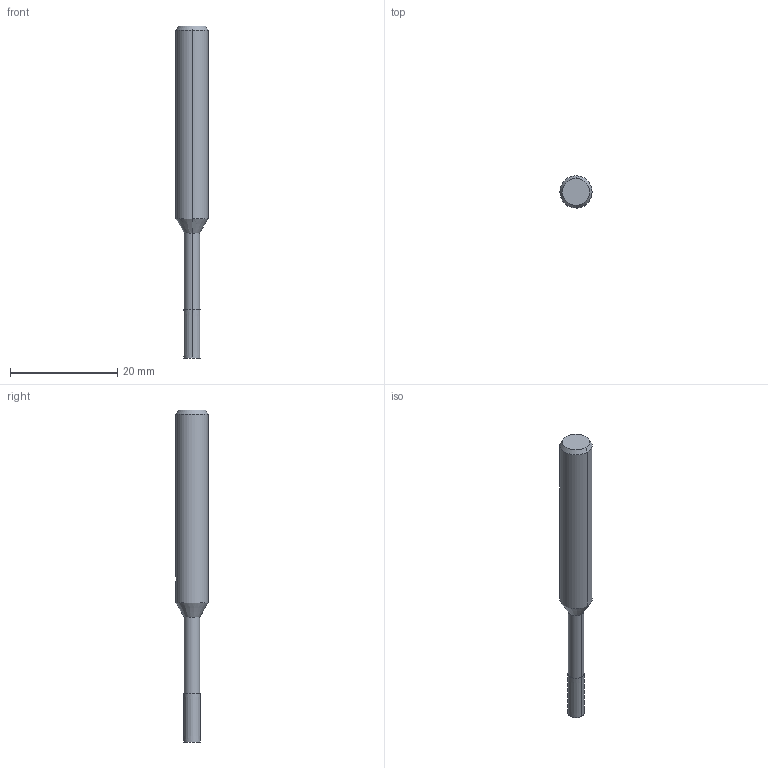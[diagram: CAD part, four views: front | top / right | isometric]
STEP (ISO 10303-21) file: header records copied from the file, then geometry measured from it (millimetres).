
FILE_DESCRIPTION(('no description'),'unknown implementation level');
FILE_NAME('solidB51uw4sRUYlU7l_InC3S7B0kRBY_1.STP',' ',('CIMSOURCE GmbH'),('CADClick - KiM GmbH - www.kimweb.de'),'unknown preprocess','ACIS','unknown authorization');
FILE_SCHEMA(('automotive_design'));
Length unit declared in the file: millimetre
Products named in the file (2): NOCUT; CUT
Bounding box: 6 x 6 x 62 mm (x, y, z)
Volume: 1216 mm3; surface area: 1065.5 mm2
Topology: 2 solids, 2 shells, 41 faces, 93 edges, 58 vertices
Faces by surface type: cylinder 16, cone 14, plane 11
Entity records: 2488 total; most frequent: CARTESIAN_POINT 414, DIRECTION 211, STYLED_ITEM 194, PRESENTATION_STYLE_ASSIGNMENT 194, COLOUR_RGB 194, ORIENTED_EDGE 186, EDGE_CURVE 93, CURVE_STYLE 93
